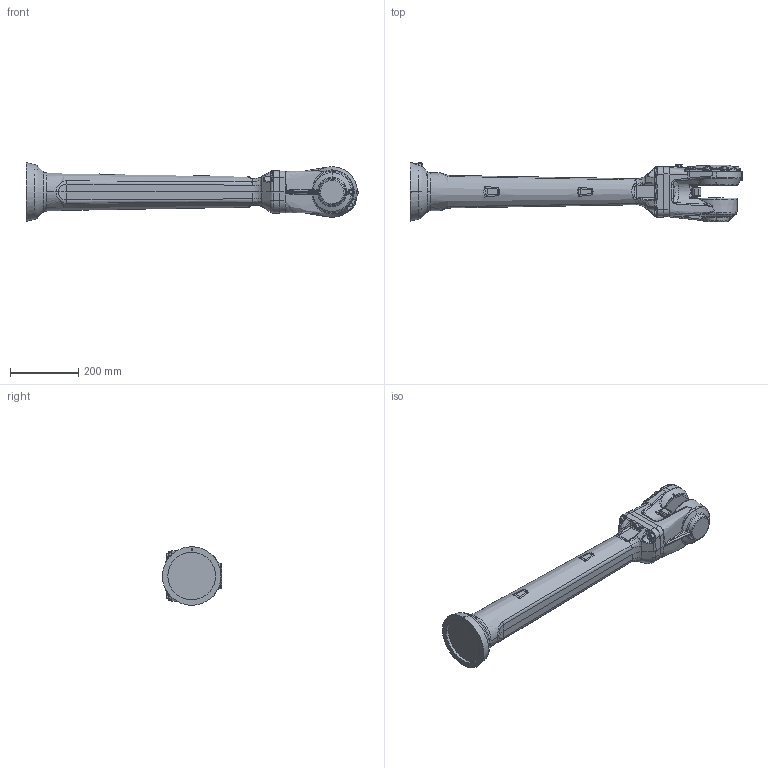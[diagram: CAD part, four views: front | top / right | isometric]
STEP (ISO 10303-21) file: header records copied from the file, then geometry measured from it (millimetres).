
FILE_DESCRIPTION (( 'STEP AP214' ), '1' );
FILE_NAME ('IRB4600_20kg-250_LINK4_CAD_rev04.STEP', '2016-12-06T10:23:29', ( 'ABB' ), ( 'ABB' ), 'SwSTEP 2.0', 'SolidWorks 2014', '' );
FILE_SCHEMA (( 'AUTOMOTIVE_DESIGN' ));
Length unit declared in the file: millimetre
Products named in the file (1): IRB4600_20kg-250_LINK4_CAD_rev04
Bounding box: 975 x 173.49 x 171.98 mm (x, y, z)
Volume: 9403617.3 mm3; surface area: 449461.8 mm2
Topology: 1 solids, 9 shells, 1089 faces, 2811 edges, 1690 vertices
Faces by surface type: bspline 578, plane 208, cylinder 199, cone 93, torus 11
Entity records: 128122 total; most frequent: CARTESIAN_POINT 107546, ORIENTED_EDGE 5482, EDGE_CURVE 2741, DIRECTION 2538, VERTEX_POINT 1690, B_SPLINE_CURVE_WITH_KNOTS 1554, EDGE_LOOP 1113, FACE_OUTER_BOUND 1089
